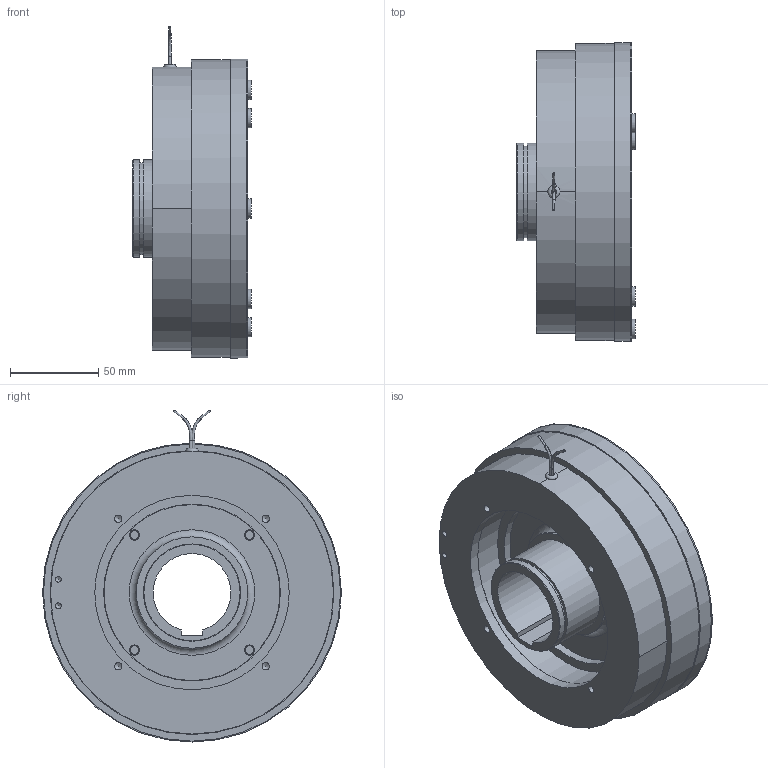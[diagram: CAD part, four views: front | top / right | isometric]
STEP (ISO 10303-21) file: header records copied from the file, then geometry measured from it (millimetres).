
FILE_DESCRIPTION(/* description */ (''),/* implementation_level */ '2;1');
FILE_NAME(/* name */ 'X:\INVENTOR\DISEGNI\08_Freni_Friz_Elettmag_Monodisco\08_26 EMSL_DF\EMSL_DF STEP\08_26_170_21 EMSL170_DF-BM@STEP.stp',/* time_stamp */ '2018-04-24T08:25:11+02:00',/* author */ ('stefano'),/* organization */ (''),/* preprocessor_version */ 'ST-DEVELOPER v17',/* originating_system */ 'Autodesk Inventor 2018',/* authorisation */ '');
FILE_SCHEMA (('AUTOMOTIVE_DESIGN { 1 0 10303 214 3 1 1 }'));
Length unit declared in the file: millimetre
Products named in the file (1): 08_26_170_21 EMSL170_DF-BM_Substitute_1
Bounding box: 67 x 169 x 187.72 mm (x, y, z)
Volume: 761317.6 mm3; surface area: 194898.4 mm2
Topology: 4 solids, 4 shells, 283 faces, 798 edges, 556 vertices
Faces by surface type: cylinder 159, plane 76, cone 40, torus 6, bspline 2
Full cylindrical faces by diameter (mm): 1.154 x2, 1.5 x7, 3.242 x2, 4.134 x4, 6 x1, 6.1 x3, 10.5 x4, 11 x12, 52 x1, 55 x2, 63 x1, 80 x1, 99.5 x1, 100 x1, 105 x2, 106 x1, 110 x1, 110.5 x1, 111 x1, 122 x1, 155 x1, 160.5 x1, 168 x1, 169 x2
Entity records: 9917 total; most frequent: CARTESIAN_POINT 1872, DIRECTION 1803, ORIENTED_EDGE 1566, EDGE_CURVE 783, AXIS2_PLACEMENT_3D 771, VERTEX_POINT 557, CIRCLE 489, EDGE_LOOP 389
